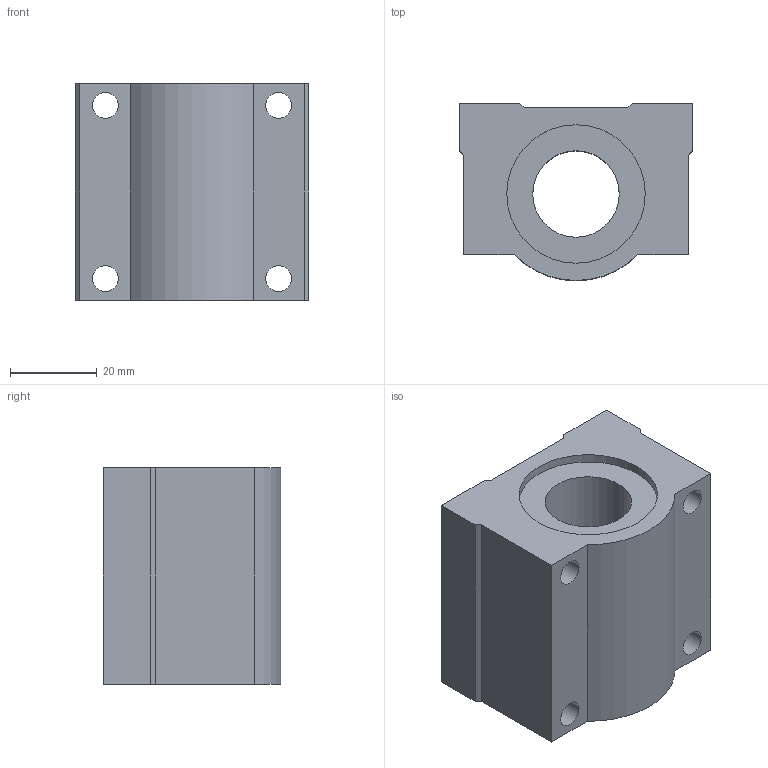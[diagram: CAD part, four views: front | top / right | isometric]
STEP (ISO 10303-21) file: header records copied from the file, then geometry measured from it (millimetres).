
FILE_DESCRIPTION((''),'2;1');
FILE_NAME('C:\Documents and Settings\ｿﾀﾀ蠑ｷ1\ｹﾙﾅﾁ ﾈｭｸ饅\ｺﾎﾇｰﾆﾄﾀﾏ\ﾁｦﾇｰ\SC__UU\SC20UU.stp','2005-06-22T15:35:06',('ｿﾀﾀ蠑ｷ1'),(''),'Autodesk Inventor 9','Autodesk Inventor 9','');
FILE_SCHEMA(('AUTOMOTIVE_DESIGN { 1 0 10303 214 1 1 1 1 }'));
Length unit declared in the file: millimetre
Products named in the file (1): SC__UU
Bounding box: 54 x 41 x 50 mm (x, y, z)
Volume: 75183.6 mm3; surface area: 17994.2 mm2
Topology: 1 solids, 1 shells, 32 faces, 84 edges, 56 vertices
Faces by surface type: plane 17, bspline 8, cylinder 7
Entity records: 1145 total; most frequent: CARTESIAN_POINT 309, ORIENTED_EDGE 168, DIRECTION 164, EDGE_CURVE 84, VERTEX_POINT 56, AXIS2_PLACEMENT_3D 55, VECTOR 54, LINE 54
